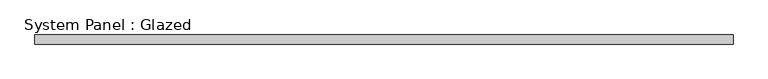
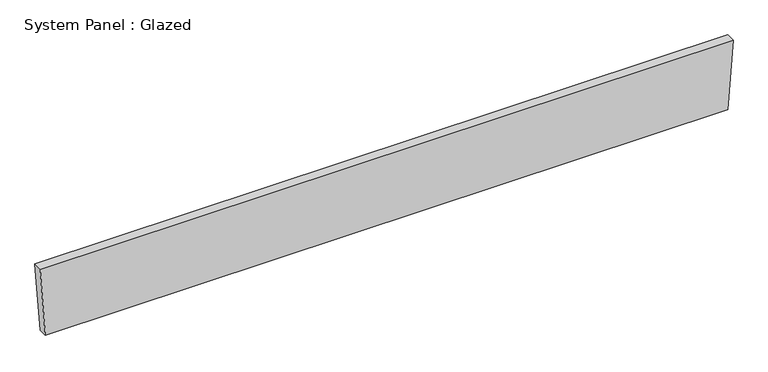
"""IFC4 building model written with IfcOpenShell, lengths in millimetres: plate geometry, System Panel : Glazed."""

from ifc_helpers import new_model, si_unit, frame, origin, place, context, project, spatial, polyline, outline, extrude, source, transform, mapped, element, save


def system_panel_glazed_45b4e97c(model_context):
    return source(origin(), model_context, "Body", "SweptSolid", [
        extrude(outline(polyline([(0.0, -958.057721), (0.0, 958.057721), (201.7956974, 972.4503677), (201.7956974, -972.4503677), (0.0, -958.057721)])), frame((0.0, 19.05, 0.0), z_axis=(0.0, 1.0, 0.0), x_axis=(0.0, 0.0, 1.0)), (0.0, 0.0, 1.0), 25.4),
    ])


if __name__ == "__main__":
    model = new_model("IFC4")
    model_context = context("Model", 3, world=origin())
    ifc_project = project(units=[si_unit("LENGTHUNIT", "METRE", prefix="MILLI")], contexts=[model_context])
    site = spatial("IfcSite", under=ifc_project)
    building = spatial("IfcBuilding", under=site)
    placement = place(None, origin())
    system_panel_glazed_shape = system_panel_glazed_45b4e97c(model_context)
    element("IfcPlate", 1, ObjectType="System Panel : Glazed", at=placement, inside=building, context=model_context, shape_type="MappedRepresentation", body=[
        mapped(system_panel_glazed_shape, transform((0.0, 0.0, 0.0), x_axis=(1.0, 0.0, 0.0), y_axis=(0.0, 1.0, 0.0), z_axis=(0.0, 0.0, 1.0))),
    ])
    save(model, "model.ifc")
